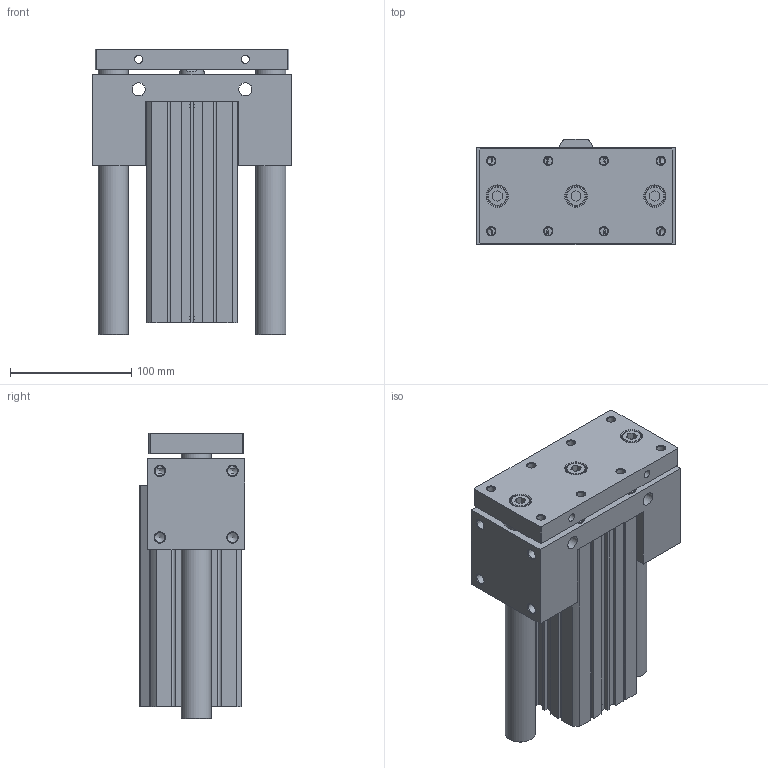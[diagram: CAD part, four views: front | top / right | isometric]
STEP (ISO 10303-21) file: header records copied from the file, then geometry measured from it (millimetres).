
FILE_DESCRIPTION((''),'2;1');
FILE_NAME('I:\3D電子目錄\氣缸\JCB\JCB\JCB63-S\JCB63x140-S.stp','2007-09-01T15:33:40',('Administrator'),(''),'Autodesk Inventor 11','Autodesk Inventor 11','');
FILE_SCHEMA(('AUTOMOTIVE_DESIGN { 1 0 10303 214 1 1 1 1 }'));
Length unit declared in the file: millimetre
Products named in the file (1): JCB63
Bounding box: 164 x 87 x 235.5 mm (x, y, z)
Volume: 1922269.8 mm3; surface area: 270064.7 mm2
Topology: 3 solids, 5 shells, 343 faces, 829 edges, 538 vertices
Faces by surface type: plane 186, cylinder 62, cone 47, bspline 40, torus 8
Full cylindrical faces by diameter (mm): 3 x2, 6.8 x4, 8.376 x4, 11 x8, 13 x4, 14 x4, 16 x3, 17.5 x3, 20 x1, 21 x1, 25 x2, 28 x2, 40 x1, 47 x1, 65 x4, 68 x2
Entity records: 10008 total; most frequent: CARTESIAN_POINT 2670, DIRECTION 1474, ORIENTED_EDGE 1320, EDGE_CURVE 660, EDGE_LOOP 554, AXIS2_PLACEMENT_3D 532, VERTEX_POINT 498, VECTOR 410
